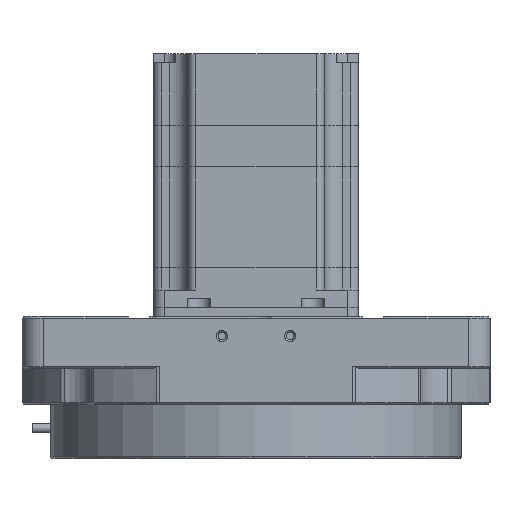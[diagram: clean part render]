
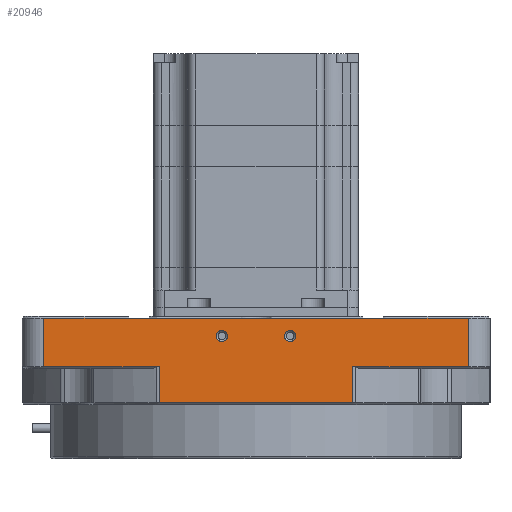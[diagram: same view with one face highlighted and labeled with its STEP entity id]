
A CAD part, front view. The second image highlights one B-rep face of the part: STEP entity #20946.
In plain terms, the highlighted planar face has unit normal (0, -1, 0).
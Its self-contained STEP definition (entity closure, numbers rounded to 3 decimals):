
#91 = CIRCLE ( 'NONE', #14110, 1.55 ) ;
#428 = FACE_OUTER_BOUND ( 'NONE', #17503, .T. ) ;
#1318 = CARTESIAN_POINT ( 'NONE',  ( 49.905, -96.132, -1.75 ) ) ;
#1350 = DIRECTION ( 'NONE',  ( 0., 0., 1. ) ) ;
#1494 = CARTESIAN_POINT ( 'NONE',  ( -35.988, -96.132, -12.25 ) ) ;
#1769 = DIRECTION ( 'NONE',  ( 0., 0., 1. ) ) ;
#1824 = CARTESIAN_POINT ( 'NONE',  ( -45.095, -96.132, 11.75 ) ) ;
#1875 = DIRECTION ( 'NONE',  ( 0., 1., 0. ) ) ;
#1894 = EDGE_CURVE ( 'NONE', #31564, #5278, #33551, .T. ) ;
#2941 = DIRECTION ( 'NONE',  ( 1., 0., 0. ) ) ;
#3853 = CARTESIAN_POINT ( 'NONE',  ( 49.905, -96.132, 12.25 ) ) ;
#4036 = ORIENTED_EDGE ( 'NONE', *, *, #5286, .F. ) ;
#4084 = DIRECTION ( 'NONE',  ( 0., 1., 0. ) ) ;
#4312 = EDGE_CURVE ( 'NONE', #10901, #21796, #14456, .T. ) ;
#4417 = LINE ( 'NONE', #1494, #24278 ) ;
#4460 = DIRECTION ( 'NONE',  ( 1., 0., 0. ) ) ;
#5278 = VERTEX_POINT ( 'NONE', #18181 ) ;
#5286 = EDGE_CURVE ( 'NONE', #30353, #13015, #29322, .T. ) ;
#5309 = DIRECTION ( 'NONE',  ( 0., 1., 0. ) ) ;
#5552 = CARTESIAN_POINT ( 'NONE',  ( -18.595, -96.132, 6.75 ) ) ;
#5603 = ORIENTED_EDGE ( 'NONE', *, *, #1894, .T. ) ;
#5921 = DIRECTION ( 'NONE',  ( 0., 1., 0. ) ) ;
#6127 = VERTEX_POINT ( 'NONE', #1318 ) ;
#6157 = VERTEX_POINT ( 'NONE', #24495 ) ;
#6160 = ORIENTED_EDGE ( 'NONE', *, *, #32549, .T. ) ;
#6891 = VECTOR ( 'NONE', #1769, 1000. ) ;
#7294 = EDGE_CURVE ( 'NONE', #27592, #30979, #17795, .T. ) ;
#7353 = DIRECTION ( 'NONE',  ( 1., 0., 0. ) ) ;
#7446 = AXIS2_PLACEMENT_3D ( 'NONE', #15226, #1875, #7353 ) ;
#7601 = DIRECTION ( 'NONE',  ( 1., 0., 0. ) ) ;
#8165 = DIRECTION ( 'NONE',  ( 1., 0., 0. ) ) ;
#8340 = LINE ( 'NONE', #35577, #16980 ) ;
#8884 = ORIENTED_EDGE ( 'NONE', *, *, #11094, .T. ) ;
#9474 = EDGE_CURVE ( 'NONE', #5278, #31564, #91, .T. ) ;
#9551 = DIRECTION ( 'NONE',  ( 0., 0., -1. ) ) ;
#9603 = ORIENTED_EDGE ( 'NONE', *, *, #20855, .T. ) ;
#9730 = AXIS2_PLACEMENT_3D ( 'NONE', #5552, #5921, #16690 ) ;
#10290 = DIRECTION ( 'NONE',  ( 0., 0., 1. ) ) ;
#10901 = VERTEX_POINT ( 'NONE', #33592 ) ;
#11094 = EDGE_CURVE ( 'NONE', #21796, #6157, #12529, .T. ) ;
#11235 = ORIENTED_EDGE ( 'NONE', *, *, #7294, .T. ) ;
#11559 = FACE_BOUND ( 'NONE', #24235, .T. ) ;
#12104 = VERTEX_POINT ( 'NONE', #16095 ) ;
#12151 = CARTESIAN_POINT ( 'NONE',  ( -68.095, -96.132, -1.75 ) ) ;
#12529 = LINE ( 'NONE', #23863, #6891 ) ;
#13015 = VERTEX_POINT ( 'NONE', #24406 ) ;
#13611 = VECTOR ( 'NONE', #2941, 1000. ) ;
#13685 = LINE ( 'NONE', #30487, #31440 ) ;
#13716 = AXIS2_PLACEMENT_3D ( 'NONE', #14321, #22532, #25652 ) ;
#14033 = EDGE_CURVE ( 'NONE', #6157, #6127, #8340, .T. ) ;
#14110 = AXIS2_PLACEMENT_3D ( 'NONE', #30333, #5309, #10290 ) ;
#14321 = CARTESIAN_POINT ( 'NONE',  ( 0.405, -96.132, 6.75 ) ) ;
#14448 = CARTESIAN_POINT ( 'NONE',  ( -18.595, -96.132, 5.2 ) ) ;
#14456 = LINE ( 'NONE', #30525, #13611 ) ;
#14742 = ORIENTED_EDGE ( 'NONE', *, *, #18419, .F. ) ;
#15226 = CARTESIAN_POINT ( 'NONE',  ( -68.095, -96.132, 12.25 ) ) ;
#15402 = FACE_BOUND ( 'NONE', #24241, .T. ) ;
#15990 = CARTESIAN_POINT ( 'NONE',  ( -44.095, -96.132, 11.75 ) ) ;
#16095 = CARTESIAN_POINT ( 'NONE',  ( 49.905, -96.132, 11.75 ) ) ;
#16143 = CIRCLE ( 'NONE', #9730, 1.55 ) ;
#16690 = DIRECTION ( 'NONE',  ( 0., 0., 1. ) ) ;
#16980 = VECTOR ( 'NONE', #8165, 1000. ) ;
#17503 = EDGE_LOOP ( 'NONE', ( #14742, #21707, #4036, #9603, #18280, #11235, #26577, #34653, #8884, #30539 ) ) ;
#17739 = VERTEX_POINT ( 'NONE', #33326 ) ;
#17795 = LINE ( 'NONE', #21079, #33842 ) ;
#18013 = EDGE_CURVE ( 'NONE', #33583, #17739, #20248, .T. ) ;
#18181 = CARTESIAN_POINT ( 'NONE',  ( 0.405, -96.132, 8.3 ) ) ;
#18280 = ORIENTED_EDGE ( 'NONE', *, *, #34307, .T. ) ;
#18317 = VECTOR ( 'NONE', #7601, 1000. ) ;
#18419 = EDGE_CURVE ( 'NONE', #12104, #6127, #28882, .T. ) ;
#19462 = CARTESIAN_POINT ( 'NONE',  ( -35.988, -96.132, -1.75 ) ) ;
#19698 = EDGE_CURVE ( 'NONE', #30979, #10901, #4417, .T. ) ;
#20248 = CIRCLE ( 'NONE', #26665, 1.55 ) ;
#20855 = EDGE_CURVE ( 'NONE', #30353, #27743, #31112, .T. ) ;
#20946 = ADVANCED_FACE ( 'NONE', ( #428, #11559, #15402 ), #29276, .F. ) ;
#21079 = CARTESIAN_POINT ( 'NONE',  ( -35.988, -96.132, -1.75 ) ) ;
#21421 = LINE ( 'NONE', #29284, #35900 ) ;
#21442 = CARTESIAN_POINT ( 'NONE',  ( -68.095, -96.132, 11.75 ) ) ;
#21590 = CARTESIAN_POINT ( 'NONE',  ( 0.405, -96.132, 5.2 ) ) ;
#21707 = ORIENTED_EDGE ( 'NONE', *, *, #22155, .T. ) ;
#21796 = VERTEX_POINT ( 'NONE', #31401 ) ;
#22155 = EDGE_CURVE ( 'NONE', #12104, #13015, #21421, .T. ) ;
#22532 = DIRECTION ( 'NONE',  ( 0., 1., 0. ) ) ;
#23758 = VECTOR ( 'NONE', #33864, 1000. ) ;
#23863 = CARTESIAN_POINT ( 'NONE',  ( 17.798, -96.132, -2.25 ) ) ;
#24235 = EDGE_LOOP ( 'NONE', ( #5603, #27658 ) ) ;
#24241 = EDGE_LOOP ( 'NONE', ( #26279, #6160 ) ) ;
#24278 = VECTOR ( 'NONE', #9551, 1000. ) ;
#24406 = CARTESIAN_POINT ( 'NONE',  ( 26.905, -96.132, 11.75 ) ) ;
#24495 = CARTESIAN_POINT ( 'NONE',  ( 17.798, -96.132, -1.75 ) ) ;
#25652 = DIRECTION ( 'NONE',  ( 0., 0., 1. ) ) ;
#26279 = ORIENTED_EDGE ( 'NONE', *, *, #18013, .T. ) ;
#26539 = DIRECTION ( 'NONE',  ( -1., 0., 0. ) ) ;
#26577 = ORIENTED_EDGE ( 'NONE', *, *, #19698, .T. ) ;
#26665 = AXIS2_PLACEMENT_3D ( 'NONE', #29107, #4084, #1350 ) ;
#27592 = VERTEX_POINT ( 'NONE', #12151 ) ;
#27658 = ORIENTED_EDGE ( 'NONE', *, *, #9474, .T. ) ;
#27734 = DIRECTION ( 'NONE',  ( 0., 0., -1. ) ) ;
#27743 = VERTEX_POINT ( 'NONE', #21442 ) ;
#28882 = LINE ( 'NONE', #3853, #34802 ) ;
#29107 = CARTESIAN_POINT ( 'NONE',  ( -18.595, -96.132, 6.75 ) ) ;
#29276 = PLANE ( 'NONE',  #7446 ) ;
#29284 = CARTESIAN_POINT ( 'NONE',  ( -68.095, -96.132, 11.75 ) ) ;
#29322 = LINE ( 'NONE', #15990, #18317 ) ;
#30333 = CARTESIAN_POINT ( 'NONE',  ( 0.405, -96.132, 6.75 ) ) ;
#30353 = VERTEX_POINT ( 'NONE', #1824 ) ;
#30487 = CARTESIAN_POINT ( 'NONE',  ( -68.095, -96.132, 12.25 ) ) ;
#30525 = CARTESIAN_POINT ( 'NONE',  ( 17.798, -96.132, -11.75 ) ) ;
#30539 = ORIENTED_EDGE ( 'NONE', *, *, #14033, .T. ) ;
#30979 = VERTEX_POINT ( 'NONE', #19462 ) ;
#31112 = LINE ( 'NONE', #34041, #23758 ) ;
#31401 = CARTESIAN_POINT ( 'NONE',  ( 17.798, -96.132, -11.75 ) ) ;
#31440 = VECTOR ( 'NONE', #27734, 1000. ) ;
#31564 = VERTEX_POINT ( 'NONE', #21590 ) ;
#32549 = EDGE_CURVE ( 'NONE', #17739, #33583, #16143, .T. ) ;
#33326 = CARTESIAN_POINT ( 'NONE',  ( -18.595, -96.132, 8.3 ) ) ;
#33551 = CIRCLE ( 'NONE', #13716, 1.55 ) ;
#33583 = VERTEX_POINT ( 'NONE', #14448 ) ;
#33592 = CARTESIAN_POINT ( 'NONE',  ( -35.988, -96.132, -11.75 ) ) ;
#33842 = VECTOR ( 'NONE', #4460, 1000. ) ;
#33864 = DIRECTION ( 'NONE',  ( -1., 0., 0. ) ) ;
#34014 = DIRECTION ( 'NONE',  ( 0., 0., -1. ) ) ;
#34041 = CARTESIAN_POINT ( 'NONE',  ( -68.095, -96.132, 11.75 ) ) ;
#34307 = EDGE_CURVE ( 'NONE', #27743, #27592, #13685, .T. ) ;
#34653 = ORIENTED_EDGE ( 'NONE', *, *, #4312, .T. ) ;
#34802 = VECTOR ( 'NONE', #34014, 1000. ) ;
#35577 = CARTESIAN_POINT ( 'NONE',  ( 49.905, -96.132, -1.75 ) ) ;
#35900 = VECTOR ( 'NONE', #26539, 1000. ) ;
